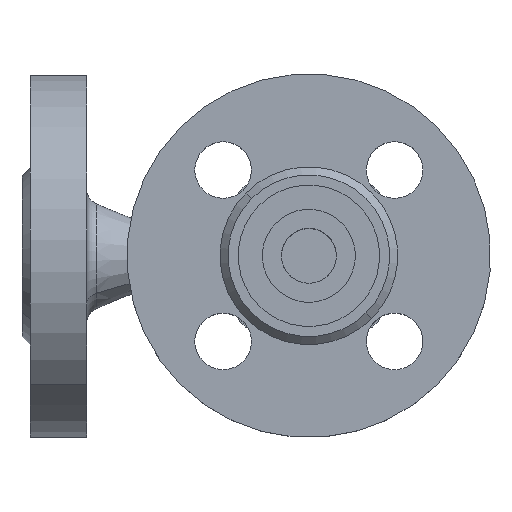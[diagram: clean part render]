
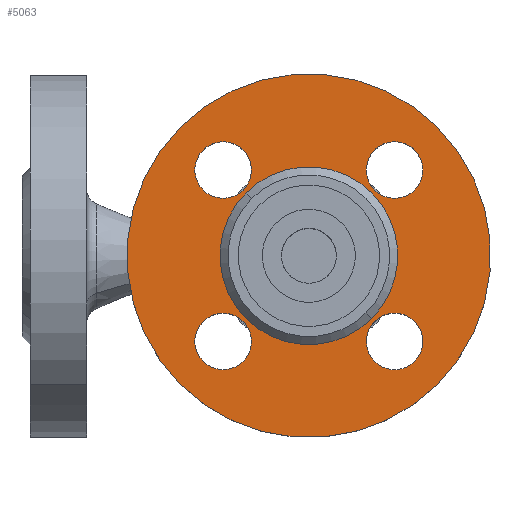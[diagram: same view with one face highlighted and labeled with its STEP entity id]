
A CAD part, top view. The second image highlights one B-rep face of the part: STEP entity #5063.
In plain terms, the highlighted planar face has unit normal (0, 0, 1) as drawn and (0, -1, 0) by its records, which use the part's own axes.
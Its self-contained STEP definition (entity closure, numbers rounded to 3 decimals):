
#131 = ORIENTED_EDGE ( 'NONE', *, *, #12492, .T. ) ;
#420 = ORIENTED_EDGE ( 'NONE', *, *, #9429, .T. ) ;
#421 = CARTESIAN_POINT ( 'NONE',  ( 22., 2., 0. ) ) ;
#444 = CARTESIAN_POINT ( 'NONE',  ( -37., 2., 0. ) ) ;
#774 = EDGE_CURVE ( 'NONE', #8991, #9211, #6471, .T. ) ;
#1249 = CARTESIAN_POINT ( 'NONE',  ( 45., 2., 0. ) ) ;
#1330 = CARTESIAN_POINT ( 'NONE',  ( -45., 2., 0. ) ) ;
#1380 = CIRCLE ( 'NONE', #1381, 45. ) ;
#1381 = AXIS2_PLACEMENT_3D ( 'NONE', #1382, #1383, #1384 ) ;
#1382 = CARTESIAN_POINT ( 'NONE',  ( 0., 2., 0. ) ) ;
#1383 = DIRECTION ( 'NONE',  ( 0., 1., 0. ) ) ;
#1384 = DIRECTION ( 'NONE',  ( -1., 0., 0. ) ) ;
#1981 = EDGE_CURVE ( 'NONE', #10070, #8842, #8038, .T. ) ;
#2185 = ORIENTED_EDGE ( 'NONE', *, *, #1981, .T. ) ;
#2322 = EDGE_CURVE ( 'NONE', #4525, #4747, #9347, .T. ) ;
#2525 = CIRCLE ( 'NONE', #2526, 7. ) ;
#2526 = AXIS2_PLACEMENT_3D ( 'NONE', #2527, #2528, #2529 ) ;
#2527 = CARTESIAN_POINT ( 'NONE',  ( -30., 2., 0. ) ) ;
#2528 = DIRECTION ( 'NONE',  ( 0., 1., 0. ) ) ;
#2529 = DIRECTION ( 'NONE',  ( -1., 0., 0. ) ) ;
#2684 = ORIENTED_EDGE ( 'NONE', *, *, #9066, .T. ) ;
#3144 = VERTEX_POINT ( 'NONE', #10446 ) ;
#3198 = EDGE_LOOP ( 'NONE', ( #2684, #2185 ) ) ;
#3370 = VERTEX_POINT ( 'NONE', #10648 ) ;
#3449 = ORIENTED_EDGE ( 'NONE', *, *, #5951, .F. ) ;
#3598 = EDGE_CURVE ( 'NONE', #3370, #3144, #10815, .T. ) ;
#3960 = ORIENTED_EDGE ( 'NONE', *, *, #10787, .F. ) ;
#4436 = EDGE_LOOP ( 'NONE', ( #4955, #5552 ) ) ;
#4474 = EDGE_LOOP ( 'NONE', ( #3960, #3449 ) ) ;
#4525 = VERTEX_POINT ( 'NONE', #12576 ) ;
#4528 = ORIENTED_EDGE ( 'NONE', *, *, #13308, .T. ) ;
#4747 = VERTEX_POINT ( 'NONE', #12951 ) ;
#4955 = ORIENTED_EDGE ( 'NONE', *, *, #5850, .T. ) ;
#5063 = ADVANCED_FACE ( 'NONE', ( #13301, #13302, #13303, #13304, #13305, #13306 ), #13309, .F. ) ;
#5347 = VERTEX_POINT ( 'NONE', #444 ) ;
#5398 = ORIENTED_EDGE ( 'NONE', *, *, #774, .T. ) ;
#5552 = ORIENTED_EDGE ( 'NONE', *, *, #3598, .T. ) ;
#5617 = EDGE_LOOP ( 'NONE', ( #6618, #11307 ) ) ;
#5683 = EDGE_LOOP ( 'NONE', ( #4528, #131 ) ) ;
#5850 = EDGE_CURVE ( 'NONE', #3144, #3370, #6332, .T. ) ;
#5867 = EDGE_CURVE ( 'NONE', #4747, #4525, #6416, .T. ) ;
#5872 = VERTEX_POINT ( 'NONE', #6432 ) ;
#5951 = EDGE_CURVE ( 'NONE', #10493, #10639, #7563, .T. ) ;
#6332 = CIRCLE ( 'NONE', #6333, 7. ) ;
#6333 = AXIS2_PLACEMENT_3D ( 'NONE', #6334, #6335, #6336 ) ;
#6334 = CARTESIAN_POINT ( 'NONE',  ( 0., 2., -30. ) ) ;
#6335 = DIRECTION ( 'NONE',  ( 0., 1., 0. ) ) ;
#6336 = DIRECTION ( 'NONE',  ( -1., 0., 0. ) ) ;
#6416 = CIRCLE ( 'NONE', #6417, 7. ) ;
#6417 = AXIS2_PLACEMENT_3D ( 'NONE', #6418, #6419, #6420 ) ;
#6418 = CARTESIAN_POINT ( 'NONE',  ( 0., 2., 30. ) ) ;
#6419 = DIRECTION ( 'NONE',  ( 0., 1., 0. ) ) ;
#6420 = DIRECTION ( 'NONE',  ( -1., 0., 0. ) ) ;
#6432 = CARTESIAN_POINT ( 'NONE',  ( -23., 2., 0. ) ) ;
#6471 = CIRCLE ( 'NONE', #6472, 7. ) ;
#6472 = AXIS2_PLACEMENT_3D ( 'NONE', #6473, #6474, #6475 ) ;
#6473 = CARTESIAN_POINT ( 'NONE',  ( 30., 2., 0. ) ) ;
#6474 = DIRECTION ( 'NONE',  ( 0., 1., 0. ) ) ;
#6475 = DIRECTION ( 'NONE',  ( -1., 0., 0. ) ) ;
#6618 = ORIENTED_EDGE ( 'NONE', *, *, #2322, .T. ) ;
#6710 = EDGE_LOOP ( 'NONE', ( #5398, #420 ) ) ;
#7563 = CIRCLE ( 'NONE', #7564, 45. ) ;
#7564 = AXIS2_PLACEMENT_3D ( 'NONE', #7565, #7566, #7567 ) ;
#7565 = CARTESIAN_POINT ( 'NONE',  ( 0., 2., 0. ) ) ;
#7566 = DIRECTION ( 'NONE',  ( 0., 1., 0. ) ) ;
#7567 = DIRECTION ( 'NONE',  ( -1., 0., 0. ) ) ;
#8038 = CIRCLE ( 'NONE', #8039, 22. ) ;
#8039 = AXIS2_PLACEMENT_3D ( 'NONE', #8040, #8041, #8042 ) ;
#8040 = CARTESIAN_POINT ( 'NONE',  ( 0., 2., 0. ) ) ;
#8041 = DIRECTION ( 'NONE',  ( 0., 1., 0. ) ) ;
#8042 = DIRECTION ( 'NONE',  ( -1., 0., 0. ) ) ;
#8842 = VERTEX_POINT ( 'NONE', #12443 ) ;
#8991 = VERTEX_POINT ( 'NONE', #12617 ) ;
#9066 = EDGE_CURVE ( 'NONE', #8842, #10070, #12842, .T. ) ;
#9211 = VERTEX_POINT ( 'NONE', #12952 ) ;
#9347 = CIRCLE ( 'NONE', #9348, 7. ) ;
#9348 = AXIS2_PLACEMENT_3D ( 'NONE', #9349, #9350, #9351 ) ;
#9349 = CARTESIAN_POINT ( 'NONE',  ( 0., 2., 30. ) ) ;
#9350 = DIRECTION ( 'NONE',  ( 0., 1., 0. ) ) ;
#9351 = DIRECTION ( 'NONE',  ( -1., 0., 0. ) ) ;
#9429 = EDGE_CURVE ( 'NONE', #9211, #8991, #13136, .T. ) ;
#10070 = VERTEX_POINT ( 'NONE', #421 ) ;
#10446 = CARTESIAN_POINT ( 'NONE',  ( -7., 2., -30. ) ) ;
#10493 = VERTEX_POINT ( 'NONE', #1249 ) ;
#10639 = VERTEX_POINT ( 'NONE', #1330 ) ;
#10648 = CARTESIAN_POINT ( 'NONE',  ( 7., 2., -30. ) ) ;
#10787 = EDGE_CURVE ( 'NONE', #10639, #10493, #1380, .T. ) ;
#10815 = CIRCLE ( 'NONE', #10816, 7. ) ;
#10816 = AXIS2_PLACEMENT_3D ( 'NONE', #10817, #10818, #10819 ) ;
#10817 = CARTESIAN_POINT ( 'NONE',  ( 0., 2., -30. ) ) ;
#10818 = DIRECTION ( 'NONE',  ( 0., 1., 0. ) ) ;
#10819 = DIRECTION ( 'NONE',  ( -1., 0., 0. ) ) ;
#11307 = ORIENTED_EDGE ( 'NONE', *, *, #5867, .T. ) ;
#12177 = CIRCLE ( 'NONE', #12178, 7. ) ;
#12178 = AXIS2_PLACEMENT_3D ( 'NONE', #12179, #12180, #12181 ) ;
#12179 = CARTESIAN_POINT ( 'NONE',  ( -30., 2., 0. ) ) ;
#12180 = DIRECTION ( 'NONE',  ( 0., 1., 0. ) ) ;
#12181 = DIRECTION ( 'NONE',  ( -1., 0., 0. ) ) ;
#12443 = CARTESIAN_POINT ( 'NONE',  ( -22., 2., 0. ) ) ;
#12492 = EDGE_CURVE ( 'NONE', #5872, #5347, #2525, .T. ) ;
#12576 = CARTESIAN_POINT ( 'NONE',  ( -7., 2., 30. ) ) ;
#12617 = CARTESIAN_POINT ( 'NONE',  ( 23., 2., 0. ) ) ;
#12842 = CIRCLE ( 'NONE', #12843, 22. ) ;
#12843 = AXIS2_PLACEMENT_3D ( 'NONE', #12844, #12847, #12848 ) ;
#12844 = CARTESIAN_POINT ( 'NONE',  ( 0., 2., 0. ) ) ;
#12847 = DIRECTION ( 'NONE',  ( 0., 1., 0. ) ) ;
#12848 = DIRECTION ( 'NONE',  ( -1., 0., 0. ) ) ;
#12951 = CARTESIAN_POINT ( 'NONE',  ( 7., 2., 30. ) ) ;
#12952 = CARTESIAN_POINT ( 'NONE',  ( 37., 2., 0. ) ) ;
#13136 = CIRCLE ( 'NONE', #13140, 7. ) ;
#13140 = AXIS2_PLACEMENT_3D ( 'NONE', #13141, #13142, #13143 ) ;
#13141 = CARTESIAN_POINT ( 'NONE',  ( 30., 2., 0. ) ) ;
#13142 = DIRECTION ( 'NONE',  ( 0., 1., 0. ) ) ;
#13143 = DIRECTION ( 'NONE',  ( -1., 0., 0. ) ) ;
#13301 = FACE_BOUND ( 'NONE', #4436, .T. ) ;
#13302 = FACE_BOUND ( 'NONE', #5683, .T. ) ;
#13303 = FACE_BOUND ( 'NONE', #5617, .T. ) ;
#13304 = FACE_BOUND ( 'NONE', #6710, .T. ) ;
#13305 = FACE_OUTER_BOUND ( 'NONE', #4474, .T. ) ;
#13306 = FACE_BOUND ( 'NONE', #3198, .T. ) ;
#13308 = EDGE_CURVE ( 'NONE', #5347, #5872, #12177, .T. ) ;
#13309 = PLANE ( 'NONE',  #13310 ) ;
#13310 = AXIS2_PLACEMENT_3D ( 'NONE', #13311, #13312, #13313 ) ;
#13311 = CARTESIAN_POINT ( 'NONE',  ( 22., 2., 0. ) ) ;
#13312 = DIRECTION ( 'NONE',  ( 0., 1., 0. ) ) ;
#13313 = DIRECTION ( 'NONE',  ( -1., 0., 0. ) ) ;
